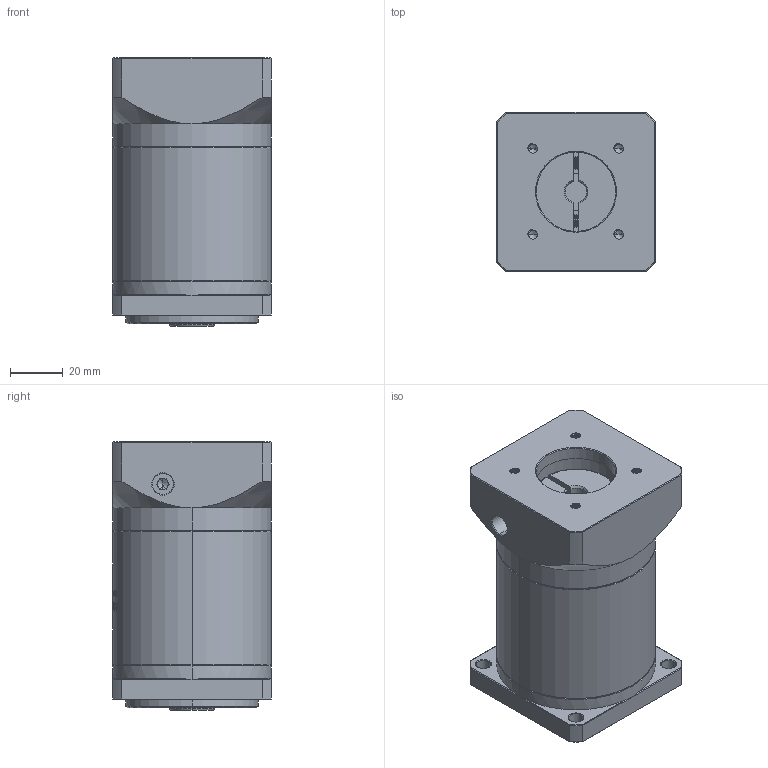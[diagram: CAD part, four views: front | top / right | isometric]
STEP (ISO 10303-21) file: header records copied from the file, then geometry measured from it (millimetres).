
FILE_DESCRIPTION (( 'STEP AP214' ), '1' );
FILE_NAME ('ZF060-K10-L2-P2-8-30-46-M4.step', '2023-08-16T04:31:53', ( '' ), ( '' ), 'SwSTEP 2.0', 'SolidWorks 2016', '' );
FILE_SCHEMA (( 'AUTOMOTIVE_DESIGN' ));
Length unit declared in the file: millimetre
Products named in the file (1): ZF060-K10-L2-P2-8-30-46-M4
Bounding box: 60 x 60 x 101.5 mm (x, y, z)
Volume: 271086.6 mm3; surface area: 46754.5 mm2
Topology: 6 solids, 6 shells, 1662 faces, 4511 edges, 2931 vertices
Faces by surface type: plane 787, bspline 347, cylinder 289, cone 221, torus 18
Entity records: 89693 total; most frequent: CARTESIAN_POINT 33384, ORIENTED_EDGE 8998, DIRECTION 6466, EDGE_CURVE 4499, VERTEX_POINT 2931, VECTOR 2308, LINE 2308, AXIS2_PLACEMENT_3D 2079
